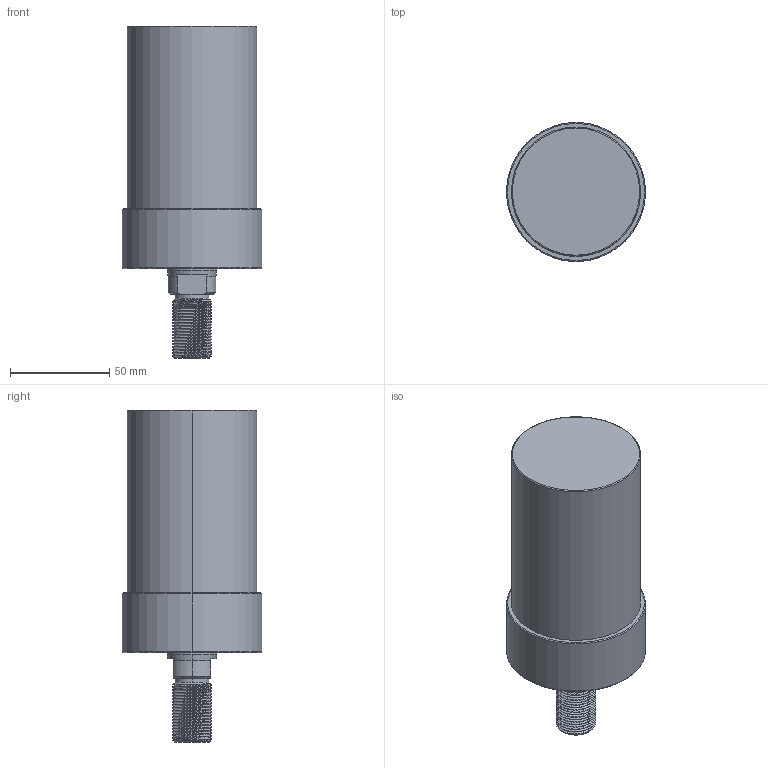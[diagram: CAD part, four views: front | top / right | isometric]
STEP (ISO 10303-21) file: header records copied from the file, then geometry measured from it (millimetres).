
FILE_DESCRIPTION (( 'STEP AP203' ), '1' );
FILE_NAME ('CLLU-065GT-075.STEP', '2020-01-16T01:22:35', ( '' ), ( '' ), 'SwSTEP 2.0', 'SolidWorks 2015', '' );
FILE_SCHEMA (( 'CONFIG_CONTROL_DESIGN' ));
Length unit declared in the file: millimetre
Products named in the file (1): CLLU-065GT-075
Bounding box: 70 x 70 x 167 mm (x, y, z)
Volume: 433621.1 mm3; surface area: 38317.4 mm2
Topology: 1 solids, 1 shells, 107 faces, 270 edges, 166 vertices
Faces by surface type: cylinder 61, cone 26, plane 12, torus 6, bspline 2
Entity records: 5351 total; most frequent: CARTESIAN_POINT 2950, ORIENTED_EDGE 524, DIRECTION 461, EDGE_CURVE 262, AXIS2_PLACEMENT_3D 184, VERTEX_POINT 166, EDGE_LOOP 116, ADVANCED_FACE 107
